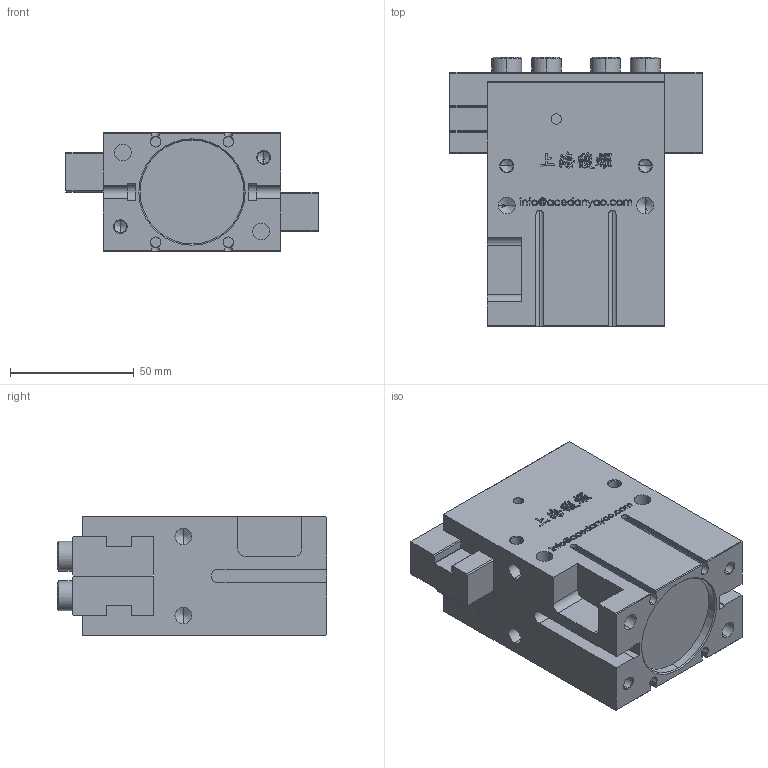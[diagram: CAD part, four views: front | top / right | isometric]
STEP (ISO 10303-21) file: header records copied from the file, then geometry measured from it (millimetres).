
FILE_DESCRIPTION (( 'STEP AP203' ), '1' );
FILE_NAME ('PEP-40-C1-VT-原始檔-組合-W106.04.20.STEP', '2017-04-20T03:36:33', ( 'DanyaoCAD' ), ( '' ), 'SwSTEP 2.0', 'SolidWorks 2016', '' );
FILE_SCHEMA (( 'CONFIG_CONTROL_DESIGN' ));
Length unit declared in the file: millimetre
Products named in the file (3): Corpo; Griffa; PEP-40-C1-VT-原始檔-組合-W106.04.20
Assembly tree (3 placements, depth 2):
  PEP-40-C1-VT-原始檔-組合-W106.04.20
    Corpo
    Griffa  x2
Bounding box: 102 x 109 x 48 mm (x, y, z)
Volume: 330852.7 mm3; surface area: 66779.9 mm2
Topology: 3 solids, 3 shells, 1053 faces, 2913 edges, 1902 vertices
Faces by surface type: bspline 640, plane 260, cylinder 95, cone 58
Entity records: 48644 total; most frequent: CARTESIAN_POINT 26881, ORIENTED_EDGE 5560, EDGE_CURVE 2780, DIRECTION 2419, VERTEX_POINT 1840, VECTOR 1311, LINE 1311, B_SPLINE_CURVE_WITH_KNOTS 1292
